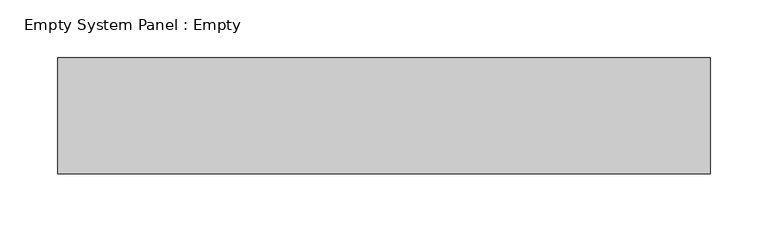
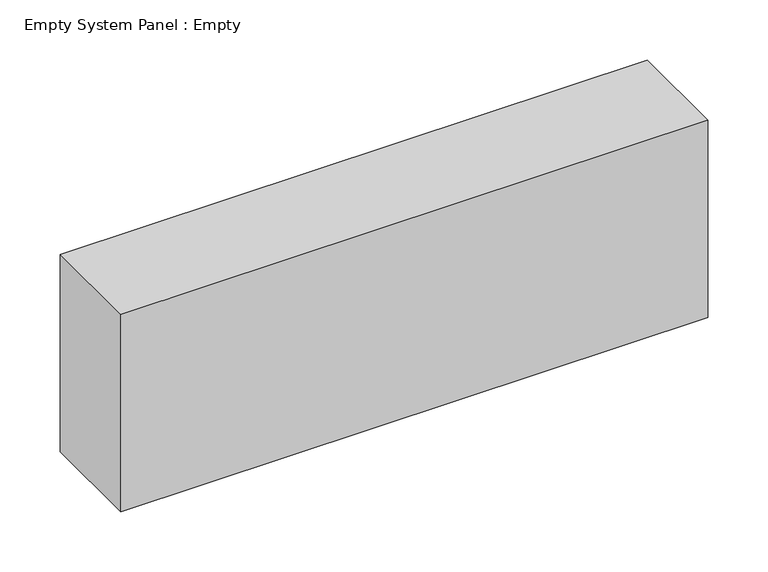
"""IFC4 building model written with IfcOpenShell, lengths in millimetres: plate geometry, Empty System Panel : Empty."""

from ifc_helpers import new_model, si_unit, origin, origin_with_axes, place, context, project, spatial, polyline, outline, extrude, source, transform, mapped, element, save


def empty_system_panel_empty_c4bc2ccb(model_context):
    return source(origin(), model_context, "Body", "SweptSolid", [
        extrude(outline(polyline([(281.25, -50.0), (-281.25, -50.0), (-281.25, 50.0), (281.25, 50.0), (281.25, -50.0)])), origin_with_axes(), (0.0, 0.0, 1.0), 200.0),
    ])


if __name__ == "__main__":
    model = new_model("IFC4")
    model_context = context("Model", 3, world=origin())
    ifc_project = project(units=[si_unit("LENGTHUNIT", "METRE", prefix="MILLI")], contexts=[model_context])
    site = spatial("IfcSite", under=ifc_project)
    building = spatial("IfcBuilding", under=site)
    placement = place(None, origin())
    empty_system_panel_empty_shape = empty_system_panel_empty_c4bc2ccb(model_context)
    element("IfcPlate", 1, ObjectType="Empty System Panel : Empty", at=placement, inside=building, context=model_context, shape_type="MappedRepresentation", body=[
        mapped(empty_system_panel_empty_shape, transform((0.0, 0.0, 0.0), x_axis=(1.0, 0.0, 0.0), y_axis=(0.0, 1.0, 0.0), z_axis=(0.0, 0.0, 1.0))),
    ])
    save(model, "model.ifc")
